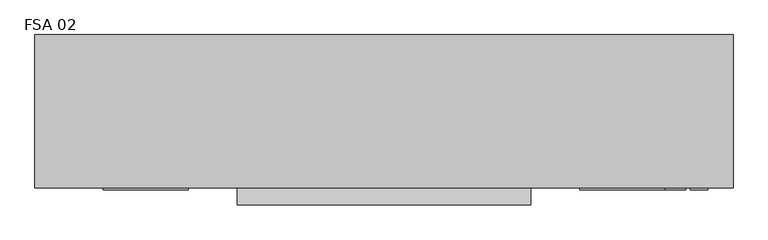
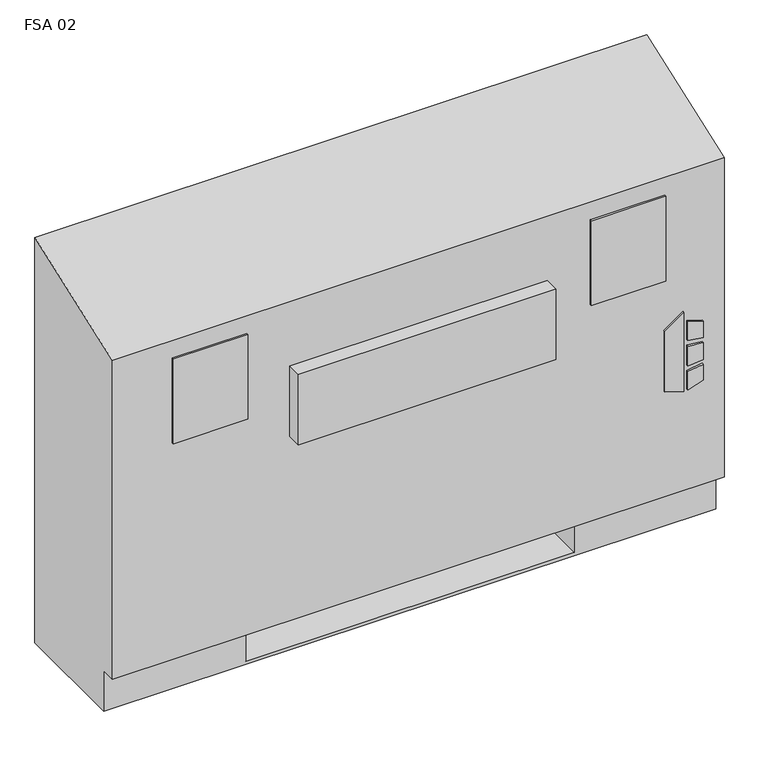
"""IFC4 building model written with IfcOpenShell, lengths in millimetres: proxy geometry, Vertical_Fan_Coil_Unit_-_FSA_-_IEC_-_2-Pipe_FS-FR_LH_2022 : FSA 02."""

from ifc_helpers import new_model, si_unit, point, frame, frame_2d, origin, place, context, project, spatial, polyline, circle_curve, trimmed, segment, composite_curve, outline, extrude, source, transform, mapped, element, save
from ifc_brep_helpers import plane_surface, revolved_surface, advanced_brep


def fsa_02_9984ac0a(model_context):
    return source(origin(), model_context, "Body", "SolidModel", [
        extrude(outline(polyline([(263.9480703, 569.9868862), (254.0, 602.1602728), (396.1709244, 602.1602728), (373.1489183, 569.9868862), (263.9480703, 569.9868862)])), frame((0.0, 12.7, 0.0), z_axis=(0.0, 1.0, 0.0), x_axis=(0.0, 0.0, 1.0)), (0.0, 0.0, 1.0), 3.175),
        extrude(outline(polyline([(342.9473557, 608.9186058), (339.7449632, 635.0), (368.9738042, 635.0), (377.0382193, 608.9186058), (342.9473557, 608.9186058)])), frame((0.0, 12.7, 0.0), z_axis=(0.0, 1.0, 0.0), x_axis=(0.0, 0.0, 1.0)), (0.0, 0.0, 1.0), 3.175),
        extrude(outline(polyline([(291.0838288, 635.0), (287.4183279, 608.9186058), (254.0, 608.9186058), (262.6342372, 635.0), (291.0838288, 635.0)])), frame((0.0, 12.7, 0.0), z_axis=(0.0, 1.0, 0.0), x_axis=(0.0, 0.0, 1.0)), (0.0, 0.0, 1.0), 3.175),
        extrude(outline(polyline([(330.3989903, 635.0), (332.6808166, 608.9186058), (296.7432681, 608.9186058), (299.4845331, 635.0), (330.3989903, 635.0)])), frame((0.0, 12.7, 0.0), z_axis=(0.0, 1.0, 0.0), x_axis=(0.0, 0.0, 1.0)), (0.0, 0.0, 1.0), 3.175),
        extrude(outline(polyline([(552.45, 223.266), (552.45, 81.534), (431.8, 81.534), (431.8, 223.266), (552.45, 223.266)])), frame((0.0, 0.0, 327.025), z_axis=(0.0, 0.0, 1.0), x_axis=(1.0, 0.0, 0.0)), (0.0, 0.0, 1.0), 260.35),
        extrude(outline(polyline([(-139.7, 12.7), (-266.7, 12.7), (-266.7, 15.875), (-139.7, 15.875), (-139.7, 12.7)])), frame((0.0, 0.0, 463.55), z_axis=(0.0, 0.0, 1.0), x_axis=(1.0, 0.0, 0.0)), (0.0, 0.0, 1.0), 152.4),
        extrude(outline(polyline([(571.5, 12.7), (444.5, 12.7), (444.5, 15.875), (571.5, 15.875), (571.5, 12.7)])), frame((0.0, 0.0, 463.55), z_axis=(0.0, 0.0, 1.0), x_axis=(1.0, 0.0, 0.0)), (0.0, 0.0, 1.0), 152.4),
        extrude(outline(composite_curve([segment(trimmed(circle_curve(frame_2d((-190.5, 130.175)), 9.525), [point((-200.025, 130.175))], [point((-180.975, 130.175))], False, "CARTESIAN"), True, "CONTINUOUS"), segment(trimmed(circle_curve(frame_2d((-190.5, 130.175)), 9.525), [point((-180.975, 130.175))], [point((-200.025, 130.175))], False, "CARTESIAN"), True, "CONTINUOUS")], self_intersect=False)), frame((0.0, 0.0, 101.6), z_axis=(0.0, 0.0, 1.0), x_axis=(1.0, 0.0, 0.0)), (0.0, 0.0, 1.0), 25.4),
        extrude(outline(polyline([(-292.1, 63.5), (-292.1, 196.85), (-127.0, 196.85), (-127.0, 63.5), (-292.1, 63.5)])), frame((0.0, 0.0, 127.0), z_axis=(0.0, 0.0, 1.0), x_axis=(1.0, 0.0, 0.0)), (0.0, 0.0, 1.0), 50.8),
        extrude(outline(polyline([(371.475, -9.525), (-66.675, -9.525), (-66.675, 15.875), (371.475, 15.875), (371.475, -9.525)])), frame((0.0, 0.0, 405.1759245), z_axis=(0.0, 0.0, 1.0), x_axis=(1.0, 0.0, 0.0)), (0.0, 0.0, 1.0), 127.0),
        extrude(outline(composite_curve([segment(trimmed(circle_curve(frame_2d((109.347, 456.819)), 7.9375), [point((109.347, 464.7565))], [point((109.347, 448.8815))], False, "CARTESIAN"), True, "CONTINUOUS"), segment(trimmed(circle_curve(frame_2d((109.347, 456.819)), 7.9375), [point((109.347, 448.8815))], [point((109.347, 464.7565))], False, "CARTESIAN"), True, "CONTINUOUS")], self_intersect=False)), frame((-177.8, 0.0, 0.0), z_axis=(1.0, 0.0, 0.0), x_axis=(0.0, 1.0, 0.0)), (0.0, 0.0, 1.0), 50.8),
        extrude(outline(composite_curve([segment(trimmed(circle_curve(frame_2d((157.4546, 429.4632)), 7.9375), [point((157.4546, 437.4007))], [point((157.4546, 421.5257))], False, "CARTESIAN"), True, "CONTINUOUS"), segment(trimmed(circle_curve(frame_2d((157.4546, 429.4632)), 7.9375), [point((157.4546, 421.5257))], [point((157.4546, 437.4007))], False, "CARTESIAN"), True, "CONTINUOUS")], self_intersect=False)), frame((-177.8, 0.0, 0.0), z_axis=(1.0, 0.0, 0.0), x_axis=(0.0, 1.0, 0.0)), (0.0, 0.0, 1.0), 50.8),
        advanced_brep(
        [(-368.3, 244.475, 0.0), (673.1, 244.475, 0.0), (673.1, 41.275, 0.0), (-368.3, 41.275, 0.0), (-368.3, 244.475, 730.25), (673.1, 244.475, 730.25), (431.8, 244.475, 73.025), (660.4, 244.475, 73.025), (660.4, 244.475, 654.05), (431.8, 244.475, 654.05), (431.8, 244.475, 414.8650565), (460.375, 244.475, 414.8650565), (460.375, 244.475, 385.2349435), (431.8, 244.475, 385.2349435), (431.8, 244.475, 287.3375), (460.375, 244.475, 287.3375), (460.375, 244.475, 258.7625), (431.8, 244.475, 258.7625), (431.8, 244.475, 141.2875), (460.375, 244.475, 141.2875), (460.375, 244.475, 112.7125), (431.8, 244.475, 112.7125), (-127.0, 244.475, 654.05), (-355.6, 244.475, 654.05), (-355.6, 244.475, 73.025), (-127.0, 244.475, 73.025), (-127.0, 244.475, 112.7125), (-155.575, 244.475, 112.7125), (-155.575, 244.475, 141.2875), (-127.0, 244.475, 141.2875), (-127.0, 244.475, 258.7625), (-155.575, 244.475, 258.7625), (-155.575, 244.475, 287.3375), (-127.0, 244.475, 287.3375), (-127.0, 244.475, 385.2349435), (-155.575, 244.475, 385.2349435), (-155.575, 244.475, 414.8650565), (-127.0, 244.475, 414.8650565), (450.0626, 244.475, 127.0), (438.9374, 244.475, 127.0), (450.0626, 244.475, 400.05), (438.9374, 244.475, 400.05), (450.0626, 244.475, 273.05), (438.9374, 244.475, 273.05), (-134.1374, 244.475, 127.0), (-145.2626, 244.475, 127.0), (-134.1374, 244.475, 273.05), (-145.2626, 244.475, 273.05), (-134.1374, 244.475, 400.05), (-145.2626, 244.475, 400.05), (-368.3, 41.275, 73.025), (-368.3, 15.875, 73.025), (-368.3, 15.875, 647.7), (673.1, 15.875, 73.025), (673.1, 15.875, 647.7), (673.1, 41.275, 73.025), (-127.0, 41.275, 73.025), (-127.0, 225.425, 73.025), (431.8, 225.425, 73.025), (431.8, 41.275, 73.025), (431.8, 41.275, 6.35), (-127.0, 41.275, 6.35), (431.8, 41.275, 654.05), (660.4, 41.275, 654.05), (660.4, 41.275, 73.025), (431.8, 41.275, 73.025), (-127.0, 41.275, 654.05), (-127.0, 41.275, 73.025), (-355.6, 41.275, 73.025), (-355.6, 41.275, 654.05), (431.8, 225.425, 73.025), (431.8, 238.125, 112.7125), (431.8, 238.125, 141.2875), (431.8, 238.125, 258.7625), (431.8, 238.125, 287.3375), (431.8, 238.125, 385.2349435), (431.8, 238.125, 414.8650565), (-127.0, 225.425, 73.025), (-127.0, 238.125, 414.8650565), (-127.0, 238.125, 385.2349435), (-127.0, 238.125, 287.3375), (-127.0, 238.125, 258.7625), (-127.0, 238.125, 141.2875), (-127.0, 238.125, 112.7125), (-127.0, 225.425, 6.35), (431.8, 225.425, 6.35), (460.375, 238.125, 112.7125), (460.375, 238.125, 141.2875), (438.9374, 238.125, 127.0), (450.0626, 238.125, 127.0), (460.375, 238.125, 258.7625), (460.375, 238.125, 287.3375), (438.9374, 238.125, 273.05), (450.0626, 238.125, 273.05), (460.375, 238.125, 385.2349435), (460.375, 238.125, 414.8650565), (438.9374, 238.125, 400.05), (450.0626, 238.125, 400.05), (-155.575, 238.125, 141.2875), (-155.575, 238.125, 112.7125), (-145.2626, 238.125, 127.0), (-134.1374, 238.125, 127.0), (-155.575, 238.125, 287.3375), (-155.575, 238.125, 258.7625), (-145.2626, 238.125, 273.05), (-134.1374, 238.125, 273.05), (-155.575, 238.125, 414.8650565), (-155.575, 238.125, 385.2349435), (-145.2626, 238.125, 400.05), (-134.1374, 238.125, 400.05)],
        [
            (0, 1),
            (1, 2),
            (2, 3),
            (3, 0),
            (0, 4),
            (4, 5),
            (5, 1),
            (6, 7),
            (7, 8),
            (8, 9),
            (9, 10),
            (10, 11),
            (11, 12),
            (12, 13),
            (13, 14),
            (14, 15),
            (15, 16),
            (16, 17),
            (17, 18),
            (18, 19),
            (19, 20),
            (20, 21),
            (21, 6),
            (22, 23),
            (23, 24),
            (24, 25),
            (25, 26),
            (26, 27),
            (27, 28),
            (28, 29),
            (29, 30),
            (30, 31),
            (31, 32),
            (32, 33),
            (33, 34),
            (34, 35),
            (35, 36),
            (36, 37),
            (37, 22),
            (38, 39, circle_curve(frame((444.5, 244.475, 127.0), z_axis=(0.0, -1.0, 0.0), x_axis=(-1.0, 0.0, 0.0)), 5.5626)),
            (39, 38, circle_curve(frame((444.5, 244.475, 127.0), z_axis=(0.0, -1.0, 0.0), x_axis=(-1.0, 0.0, 0.0)), 5.5626)),
            (40, 41, circle_curve(frame((444.5, 244.475, 400.05), z_axis=(0.0, -1.0, 0.0), x_axis=(-1.0, 0.0, 0.0)), 5.5626)),
            (41, 40, circle_curve(frame((444.5, 244.475, 400.05), z_axis=(0.0, -1.0, 0.0), x_axis=(-1.0, 0.0, 0.0)), 5.5626)),
            (42, 43, circle_curve(frame((444.5, 244.475, 273.05), z_axis=(0.0, -1.0, 0.0), x_axis=(-1.0, 0.0, 0.0)), 5.5626)),
            (43, 42, circle_curve(frame((444.5, 244.475, 273.05), z_axis=(0.0, -1.0, 0.0), x_axis=(-1.0, 0.0, 0.0)), 5.5626)),
            (44, 45, circle_curve(frame((-139.7, 244.475, 127.0), z_axis=(0.0, -1.0, 0.0), x_axis=(-1.0, 0.0, 0.0)), 5.5626)),
            (45, 44, circle_curve(frame((-139.7, 244.475, 127.0), z_axis=(0.0, -1.0, 0.0), x_axis=(-1.0, 0.0, 0.0)), 5.5626)),
            (46, 47, circle_curve(frame((-139.7, 244.475, 273.05), z_axis=(0.0, -1.0, 0.0), x_axis=(-1.0, 0.0, 0.0)), 5.5626)),
            (47, 46, circle_curve(frame((-139.7, 244.475, 273.05), z_axis=(0.0, -1.0, 0.0), x_axis=(-1.0, 0.0, 0.0)), 5.5626)),
            (48, 49, circle_curve(frame((-139.7, 244.475, 400.05), z_axis=(0.0, -1.0, 0.0), x_axis=(-1.0, 0.0, 0.0)), 5.5626)),
            (49, 48, circle_curve(frame((-139.7, 244.475, 400.05), z_axis=(0.0, -1.0, 0.0), x_axis=(-1.0, 0.0, 0.0)), 5.5626)),
            (3, 50),
            (50, 51),
            (51, 52),
            (52, 4),
            (51, 53),
            (53, 54),
            (54, 52),
            (5, 54),
            (53, 55),
            (55, 2),
            (50, 56),
            (56, 57),
            (57, 58),
            (58, 59),
            (59, 55),
            (59, 60),
            (60, 61),
            (61, 56),
            (62, 63),
            (63, 64),
            (64, 65),
            (65, 62),
            (66, 67),
            (67, 68),
            (68, 69),
            (69, 66),
            (65, 70),
            (70, 6),
            (21, 71),
            (71, 72),
            (72, 18),
            (17, 73),
            (73, 74),
            (74, 14),
            (13, 75),
            (75, 76),
            (76, 10),
            (9, 62),
            (64, 7),
            (63, 8),
            (69, 23),
            (22, 66),
            (68, 24),
            (67, 77),
            (77, 25),
            (37, 78),
            (78, 79),
            (79, 34),
            (33, 80),
            (80, 81),
            (81, 30),
            (29, 82),
            (82, 83),
            (83, 26),
            (57, 84),
            (84, 85),
            (85, 58),
            (85, 60),
            (84, 61),
            (71, 86),
            (86, 87),
            (87, 72),
            (88, 89, circle_curve(frame((444.5, 238.125, 127.0), z_axis=(0.0, 1.0, 0.0), x_axis=(-1.0, 0.0, 0.0)), 5.5626)),
            (89, 88, circle_curve(frame((444.5, 238.125, 127.0), z_axis=(0.0, 1.0, 0.0), x_axis=(-1.0, 0.0, 0.0)), 5.5626)),
            (73, 90),
            (90, 91),
            (91, 74),
            (92, 93, circle_curve(frame((444.5, 238.125, 273.05), z_axis=(0.0, 1.0, 0.0), x_axis=(-1.0, 0.0, 0.0)), 5.5626)),
            (93, 92, circle_curve(frame((444.5, 238.125, 273.05), z_axis=(0.0, 1.0, 0.0), x_axis=(-1.0, 0.0, 0.0)), 5.5626)),
            (75, 94),
            (94, 95),
            (95, 76),
            (96, 97, circle_curve(frame((444.5, 238.125, 400.05), z_axis=(0.0, 1.0, 0.0), x_axis=(-1.0, 0.0, 0.0)), 5.5626)),
            (97, 96, circle_curve(frame((444.5, 238.125, 400.05), z_axis=(0.0, 1.0, 0.0), x_axis=(-1.0, 0.0, 0.0)), 5.5626)),
            (98, 99),
            (99, 83),
            (82, 98),
            (100, 101, circle_curve(frame((-139.7, 238.125, 127.0), z_axis=(0.0, 1.0, 0.0), x_axis=(-1.0, 0.0, 0.0)), 5.5626)),
            (101, 100, circle_curve(frame((-139.7, 238.125, 127.0), z_axis=(0.0, 1.0, 0.0), x_axis=(-1.0, 0.0, 0.0)), 5.5626)),
            (102, 103),
            (103, 81),
            (80, 102),
            (104, 105, circle_curve(frame((-139.7, 238.125, 273.05), z_axis=(0.0, 1.0, 0.0), x_axis=(-1.0, 0.0, 0.0)), 5.5626)),
            (105, 104, circle_curve(frame((-139.7, 238.125, 273.05), z_axis=(0.0, 1.0, 0.0), x_axis=(-1.0, 0.0, 0.0)), 5.5626)),
            (106, 107),
            (107, 79),
            (78, 106),
            (108, 109, circle_curve(frame((-139.7, 238.125, 400.05), z_axis=(0.0, 1.0, 0.0), x_axis=(-1.0, 0.0, 0.0)), 5.5626)),
            (109, 108, circle_curve(frame((-139.7, 238.125, 400.05), z_axis=(0.0, 1.0, 0.0), x_axis=(-1.0, 0.0, 0.0)), 5.5626)),
            (87, 19),
            (86, 20),
            (91, 15),
            (90, 16),
            (95, 11),
            (94, 12),
            (28, 98),
            (99, 27),
            (32, 102),
            (103, 31),
            (36, 106),
            (107, 35),
            (88, 39),
            (38, 89),
            (96, 41),
            (40, 97),
            (92, 43),
            (42, 93),
            (100, 45),
            (44, 101),
            (104, 47),
            (46, 105),
            (108, 49),
            (48, 109),
        ],
        [
            plane_surface(frame((-368.3, 244.475, 0.0), z_axis=(0.0, 0.0, -1.0), x_axis=(1.0, 0.0, 0.0))),
            plane_surface(frame((673.1, 244.475, 730.25), z_axis=(0.0, 1.0, 0.0), x_axis=(0.0, 0.0, -1.0))),
            plane_surface(frame((-368.3, 244.475, 730.25), z_axis=(-1.0, 0.0, 0.0), x_axis=(0.0, 0.0, -1.0))),
            plane_surface(frame((-368.3, 15.875, 730.25), z_axis=(0.0, -1.0, 0.0), x_axis=(0.0, 0.0, -1.0))),
            plane_surface(frame((673.1, 15.875, 730.25), z_axis=(1.0, 0.0, 0.0), x_axis=(0.0, 0.0, -1.0))),
            plane_surface(frame((-368.3, 15.875, 73.025), z_axis=(0.0, 0.0, -1.0), x_axis=(1.0, 0.0, 0.0))),
            plane_surface(frame((-368.3, 41.275, 73.025), z_axis=(0.0, -1.0, 0.0), x_axis=(1.0, 0.0, 0.0))),
            plane_surface(frame((431.8, 41.275, 654.05), z_axis=(0.0, 1.0, 0.0), x_axis=(0.0, 0.0, -1.0))),
            plane_surface(frame((431.8, 41.275, 654.05), z_axis=(1.0, 0.0, 0.0), x_axis=(0.0, 1.0, 0.0))),
            plane_surface(frame((431.8, 41.275, 73.025), z_axis=(0.0, 0.0, 1.0), x_axis=(0.0, 1.0, 0.0))),
            plane_surface(frame((660.4, 41.275, 73.025), z_axis=(-1.0, 0.0, 0.0), x_axis=(0.0, 1.0, 0.0))),
            plane_surface(frame((660.4, 41.275, 654.05), z_axis=(0.0, 0.0, -1.0), x_axis=(0.0, 1.0, 0.0))),
            plane_surface(frame((-127.0, 41.275, 654.05), z_axis=(0.0, 0.0, -1.0), x_axis=(0.0, 1.0, 0.0))),
            plane_surface(frame((-355.6, 41.275, 654.05), z_axis=(1.0, 0.0, 0.0), x_axis=(0.0, 1.0, 0.0))),
            plane_surface(frame((-355.6, 41.275, 73.025), z_axis=(0.0, 0.0, 1.0), x_axis=(0.0, 1.0, 0.0))),
            plane_surface(frame((-127.0, 41.275, 73.025), z_axis=(-1.0, 0.0, 0.0), x_axis=(0.0, 1.0, 0.0))),
            plane_surface(frame((431.8, 225.425, 73.025), z_axis=(0.0, -1.0, 0.0), x_axis=(0.0, 0.0, -1.0))),
            plane_surface(frame((431.8, 225.425, 73.025), z_axis=(-1.0, 0.0, 0.0), x_axis=(0.0, -1.0, 0.0))),
            plane_surface(frame((431.8, 225.425, 6.35), z_axis=(0.0, 0.0, 1.0), x_axis=(0.0, -1.0, 0.0))),
            plane_surface(frame((-127.0, 225.425, 6.35), z_axis=(1.0, 0.0, 0.0), x_axis=(0.0, -1.0, 0.0))),
            plane_surface(frame((460.375, 238.125, 141.2875), z_axis=(0.0, -1.0, 0.0), x_axis=(-1.0, 0.0, 0.0))),
            plane_surface(frame((431.8, 244.475, 141.2875), z_axis=(0.0, 0.0, 1.0), x_axis=(0.0, -1.0, 0.0))),
            plane_surface(frame((460.375, 244.475, 141.2875), z_axis=(1.0, 0.0, 0.0), x_axis=(0.0, -1.0, 0.0))),
            plane_surface(frame((460.375, 244.475, 112.7125), z_axis=(0.0, 0.0, -1.0), x_axis=(0.0, -1.0, 0.0))),
            plane_surface(frame((431.8, 244.475, 287.3375), z_axis=(0.0, 0.0, 1.0), x_axis=(0.0, -1.0, 0.0))),
            plane_surface(frame((460.375, 244.475, 287.3375), z_axis=(1.0, 0.0, 0.0), x_axis=(0.0, -1.0, 0.0))),
            plane_surface(frame((460.375, 244.475, 258.7625), z_axis=(0.0, 0.0, -1.0), x_axis=(0.0, -1.0, 0.0))),
            plane_surface(frame((431.8, 244.475, 414.8650565), z_axis=(0.0, 0.0, 1.0), x_axis=(0.0, -1.0, 0.0))),
            plane_surface(frame((460.375, 244.475, 414.8650565), z_axis=(1.0, 0.0, 0.0), x_axis=(0.0, -1.0, 0.0))),
            plane_surface(frame((460.375, 244.475, 385.2349435), z_axis=(0.0, 0.0, -1.0), x_axis=(0.0, -1.0, 0.0))),
            plane_surface(frame((-155.575, 244.475, 141.2875), z_axis=(0.0, 0.0, 1.0), x_axis=(0.0, -1.0, 0.0))),
            plane_surface(frame((-127.0, 244.475, 112.7125), z_axis=(0.0, 0.0, -1.0), x_axis=(0.0, -1.0, 0.0))),
            plane_surface(frame((-155.575, 244.475, 112.7125), z_axis=(-1.0, 0.0, 0.0), x_axis=(0.0, -1.0, 0.0))),
            plane_surface(frame((-155.575, 244.475, 287.3375), z_axis=(0.0, 0.0, 1.0), x_axis=(0.0, -1.0, 0.0))),
            plane_surface(frame((-127.0, 244.475, 258.7625), z_axis=(0.0, 0.0, -1.0), x_axis=(0.0, -1.0, 0.0))),
            plane_surface(frame((-155.575, 244.475, 258.7625), z_axis=(-1.0, 0.0, 0.0), x_axis=(0.0, -1.0, 0.0))),
            plane_surface(frame((-155.575, 244.475, 414.8650565), z_axis=(0.0, 0.0, 1.0), x_axis=(0.0, -1.0, 0.0))),
            plane_surface(frame((-127.0, 244.475, 385.2349435), z_axis=(0.0, 0.0, -1.0), x_axis=(0.0, -1.0, 0.0))),
            plane_surface(frame((-155.575, 244.475, 385.2349435), z_axis=(-1.0, 0.0, 0.0), x_axis=(0.0, -1.0, 0.0))),
            revolved_surface(polyline([(438.9374, 238.125, 127.0), (438.9374, 244.475, 127.0)]), (444.5, 244.475, 127.0), (0.0, -1.0, 0.0)),
            revolved_surface(polyline([(438.9374, 238.125, 400.05), (438.9374, 244.475, 400.05)]), (444.5, 244.475, 400.05), (0.0, -1.0, 0.0)),
            revolved_surface(polyline([(438.9374, 238.125, 273.05), (438.9374, 244.475, 273.05)]), (444.5, 244.475, 273.05), (0.0, -1.0, 0.0)),
            revolved_surface(polyline([(-145.2626, 238.125, 127.0), (-145.2626, 244.475, 127.0)]), (-139.7, 244.475, 127.0), (0.0, -1.0, 0.0)),
            revolved_surface(polyline([(-145.2626, 238.125, 273.05), (-145.2626, 244.475, 273.05)]), (-139.7, 244.475, 273.05), (0.0, -1.0, 0.0)),
            revolved_surface(polyline([(-145.2626, 238.125, 400.05), (-145.2626, 244.475, 400.05)]), (-139.7, 244.475, 400.05), (0.0, -1.0, 0.0)),
            plane_surface(frame((-368.3, 244.475, 730.25), z_axis=(0.0, -0.33964446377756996, 0.9405538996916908), x_axis=(1.0, 0.0, 0.0))),
        ],
        [
            (0, [[1, 2, 3, 4]]),
            (1, [[-1, 5, 6, 7], [8, 9, 10, 11, 12, 13, 14, 15, 16, 17, 18, 19, 20, 21, 22, 23], [24, 25, 26, 27, 28, 29, 30, 31, 32, 33, 34, 35, 36, 37, 38, 39], [40, 41], [42, 43], [44, 45], [46, 47], [48, 49], [50, 51]]),
            (2, [[-5, -4, 52, 53, 54, 55]]),
            (3, [[56, 57, 58, -54]]),
            (4, [[-7, 59, -57, 60, 61, -2]]),
            (5, [[-53, 62, 63, 64, 65, 66, -60, -56]]),
            (6, [[-3, -61, -66, 67, 68, 69, -62, -52]]),
            (7, [[70, 71, 72, 73]]),
            (7, [[74, 75, 76, 77]]),
            (8, [[-73, 78, 79, -23, 80, 81, 82, -19, 83, 84, 85, -15, 86, 87, 88, -11, 89]]),
            (9, [[-72, 90, -8, -79, -78]]),
            (10, [[-71, 91, -9, -90]]),
            (11, [[-70, -89, -10, -91]]),
            (12, [[-77, 92, -24, 93]]),
            (13, [[-76, 94, -25, -92]]),
            (14, [[-75, 95, 96, -26, -94]]),
            (15, [[-74, -93, -39, 97, 98, 99, -35, 100, 101, 102, -31, 103, 104, 105, -27, -96, -95]]),
            (16, [[-64, 106, 107, 108]]),
            (17, [[-108, 109, -67, -65]]),
            (18, [[-107, 110, -68, -109]]),
            (19, [[-106, -63, -69, -110]]),
            (20, [[111, 112, 113, -81], [114, 115]]),
            (20, [[116, 117, 118, -84], [119, 120]]),
            (20, [[121, 122, 123, -87], [124, 125]]),
            (20, [[126, 127, -104, 128], [129, 130]]),
            (20, [[131, 132, -101, 133], [134, 135]]),
            (20, [[136, 137, -98, 138], [139, 140]]),
            (21, [[-113, 141, -20, -82]]),
            (22, [[-112, 142, -21, -141]]),
            (23, [[-111, -80, -22, -142]]),
            (24, [[-118, 143, -16, -85]]),
            (25, [[-117, 144, -17, -143]]),
            (26, [[-116, -83, -18, -144]]),
            (27, [[-123, 145, -12, -88]]),
            (28, [[-122, 146, -13, -145]]),
            (29, [[-121, -86, -14, -146]]),
            (30, [[-128, -103, -30, 147]]),
            (31, [[-127, 148, -28, -105]]),
            (32, [[-126, -147, -29, -148]]),
            (33, [[-133, -100, -34, 149]]),
            (34, [[-132, 150, -32, -102]]),
            (35, [[-131, -149, -33, -150]]),
            (36, [[-138, -97, -38, 151]]),
            (37, [[-137, 152, -36, -99]]),
            (38, [[-136, -151, -37, -152]]),
            (39, [[153, -40, 154, -114]]),
            (39, [[-153, -115, -154, -41]]),
            (40, [[155, -42, 156, -124]]),
            (40, [[-155, -125, -156, -43]]),
            (41, [[157, -44, 158, -119]]),
            (41, [[-157, -120, -158, -45]]),
            (42, [[159, -46, 160, -129]]),
            (42, [[-159, -130, -160, -47]]),
            (43, [[161, -48, 162, -134]]),
            (43, [[-161, -135, -162, -49]]),
            (44, [[163, -50, 164, -139]]),
            (44, [[-163, -140, -164, -51]]),
            (45, [[-6, -55, -58, -59]]),
        ],
    ),
    ])


if __name__ == "__main__":
    model = new_model("IFC4")
    model_context = context("Model", 3, world=origin())
    ifc_project = project(units=[si_unit("LENGTHUNIT", "METRE", prefix="MILLI")], contexts=[model_context])
    site = spatial("IfcSite", under=ifc_project)
    building = spatial("IfcBuilding", under=site)
    placement = place(None, origin())
    fsa_02_shape = fsa_02_9984ac0a(model_context)
    element("IfcBuildingElementProxy", 1, Name="Vertical_Fan_Coil_Unit_-_FSA_-_IEC_-_2-Pipe_FS-FR_LH_2022 : FSA 02", ObjectType="Vertical_Fan_Coil_Unit_-_FSA_-_IEC_-_2-Pipe_FS-FR_LH_2022 : FSA 02", at=placement, inside=building, context=model_context, shape_type="MappedRepresentation", body=[
        mapped(fsa_02_shape, transform((0.0, 0.0, 0.0), x_axis=(1.0, 0.0, 0.0), y_axis=(0.0, 1.0, 0.0), z_axis=(0.0, 0.0, 1.0))),
    ])
    save(model, "model.ifc")
